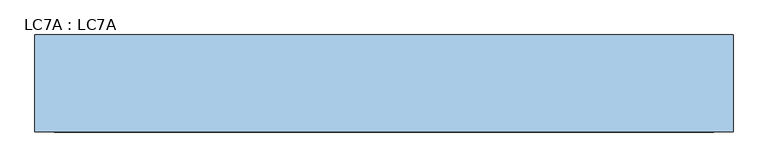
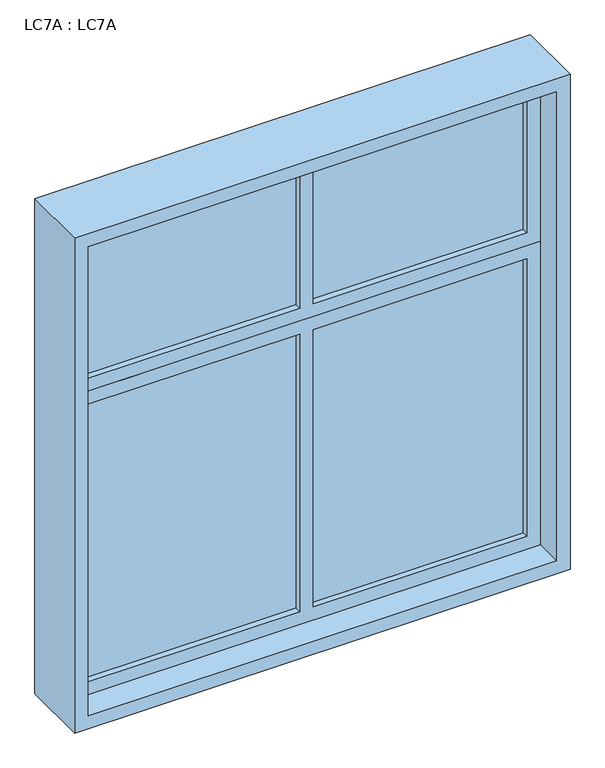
"""IFC4 building model written with IfcOpenShell, lengths in millimetres: window geometry, LC7A : LC7A."""

from ifc_helpers import new_model, si_unit, frame, origin, place, context, project, spatial, polyline, outline, extrude, source, transform, mapped, element, save


def lc7a_lc7a_525a1188(model_context):
    return source(origin(), model_context, "Body", "SweptSolid", [
        extrude(outline(polyline([(-25.0, -2.5), (-800.0, -2.5), (-800.0, 2.5), (-25.0, 2.5), (-25.0, -2.5)])), frame((0.0, 0.0, 2765.6002921), z_axis=(0.0, 0.0, 1.0), x_axis=(1.0, 0.0, 0.0)), (0.0, 0.0, 1.0), 534.3997079),
        extrude(outline(polyline([(800.0, -2.5), (25.0, -2.5), (25.0, 2.5), (800.0, 2.5), (800.0, -2.5)])), frame((0.0, 0.0, 2765.6002921), z_axis=(0.0, 0.0, 1.0), x_axis=(1.0, 0.0, 0.0)), (0.0, 0.0, 1.0), 534.3997079),
        extrude(outline(polyline([(-25.0, -2.5), (-800.0, -2.5), (-800.0, 2.5), (-25.0, 2.5), (-25.0, -2.5)])), frame((0.0, 0.0, 1600.0), z_axis=(0.0, 0.0, 1.0), x_axis=(1.0, 0.0, 0.0)), (0.0, 0.0, 1.0), 1065.6002921),
        extrude(outline(polyline([(800.0, -2.5), (25.0, -2.5), (25.0, 2.5), (800.0, 2.5), (800.0, -2.5)])), frame((0.0, 0.0, 1600.0), z_axis=(0.0, 0.0, 1.0), x_axis=(1.0, 0.0, 0.0)), (0.0, 0.0, 1.0), 1065.6002921),
        extrude(outline(polyline([(2715.6002921, 850.0), (2715.6002921, -850.0), (1550.0, -850.0), (1550.0, 850.0), (2715.6002921, 850.0)]), holes=[polyline([(2665.6002921, -25.0), (1600.0, -25.0), (1600.0, -800.0), (2665.6002921, -800.0), (2665.6002921, -25.0)]), polyline([(2665.6002921, 800.0), (1600.0, 800.0), (1600.0, 25.0), (2665.6002921, 25.0), (2665.6002921, 800.0)])]), frame((0.0, -24.9048675, 0.0), z_axis=(0.0, 1.0, 0.0), x_axis=(0.0, 0.0, 1.0)), (0.0, 0.0, 1.0), 50.0),
        extrude(outline(polyline([(3350.0, 850.0), (3350.0, -850.0), (2715.6002921, -850.0), (2715.6002921, 850.0), (3350.0, 850.0)]), holes=[polyline([(3300.0, -25.0), (2765.6002921, -25.0), (2765.6002921, -800.0), (3300.0, -800.0), (3300.0, -25.0)]), polyline([(3300.0, 800.0), (2765.6002921, 800.0), (2765.6002921, 25.0), (3300.0, 25.0), (3300.0, 800.0)])]), frame((0.0, -24.9048675, 0.0), z_axis=(0.0, 1.0, 0.0), x_axis=(0.0, 0.0, 1.0)), (0.0, 0.0, 1.0), 50.0),
        extrude(outline(polyline([(3400.0, 900.0), (3400.0, -900.0), (1500.0, -900.0), (1500.0, 900.0), (3400.0, 900.0)]), holes=[polyline([(3350.0, 850.0), (1550.0, 850.0), (1550.0, -850.0), (3350.0, -850.0), (3350.0, 850.0)])]), frame((0.0, -124.9048675, 0.0), z_axis=(0.0, 1.0, 0.0), x_axis=(0.0, 0.0, 1.0)), (0.0, 0.0, 1.0), 250.0),
    ])


if __name__ == "__main__":
    model = new_model("IFC4")
    model_context = context("Model", 3, world=origin())
    ifc_project = project(units=[si_unit("LENGTHUNIT", "METRE", prefix="MILLI")], contexts=[model_context])
    site = spatial("IfcSite", under=ifc_project)
    building = spatial("IfcBuilding", under=site)
    placement = place(None, origin())
    lc7a_lc7a_shape = lc7a_lc7a_525a1188(model_context)
    element("IfcWindow", 1, ObjectType="LC7A : LC7A", at=placement, inside=building, context=model_context, shape_type="MappedRepresentation", body=[
        mapped(lc7a_lc7a_shape, transform((0.0, 0.0, 0.0), x_axis=(1.0, 0.0, 0.0), y_axis=(0.0, 1.0, 0.0), z_axis=(0.0, 0.0, 1.0))),
    ])
    save(model, "model.ifc")
